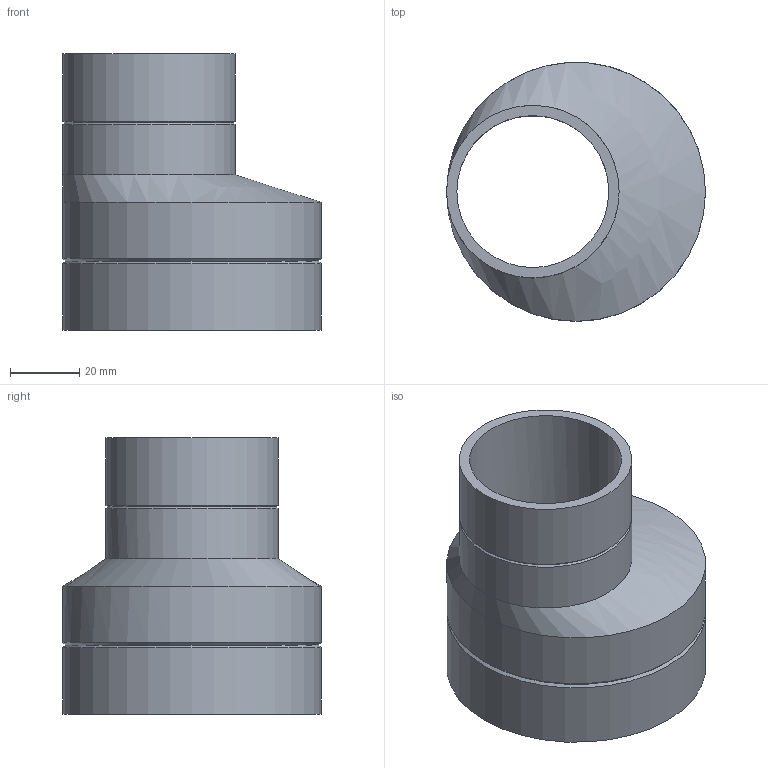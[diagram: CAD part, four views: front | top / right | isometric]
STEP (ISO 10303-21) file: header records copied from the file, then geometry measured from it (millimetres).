
FILE_DESCRIPTION(/* description */ (''),/* implementation_level */ '2;1');
FILE_NAME(/* name */ 'Z:\Geberit\Export\NewStep\365561.stp',/* time_stamp */ '2014-04-02T07:34:32+02:00',/* author */ ('nelson'),/* organization */ (''),/* preprocessor_version */ 'ST-DEVELOPER v15.2',/* originating_system */ 'Autodesk Inventor 2014',/* authorisation */ '');
FILE_SCHEMA (('AUTOMOTIVE_DESIGN { 1 0 10303 214 3 1 1 }'));
Length unit declared in the file: millimetre
Products named in the file (1): 365561
Bounding box: 75 x 75 x 80 mm (x, y, z)
Volume: 44919.3 mm3; surface area: 34341.4 mm2
Topology: 1 solids, 1 shells, 14 faces, 35 edges, 23 vertices
Faces by surface type: cylinder 6, cone 4, bspline 2, plane 2
Full cylindrical faces by diameter (mm): 44 x1, 50 x2, 69 x1, 75 x2
Entity records: 397 total; most frequent: CARTESIAN_POINT 89, DIRECTION 62, ORIENTED_EDGE 40, AXIS2_PLACEMENT_3D 31, EDGE_LOOP 26, EDGE_CURVE 20, CIRCLE 18, VERTEX_POINT 18
